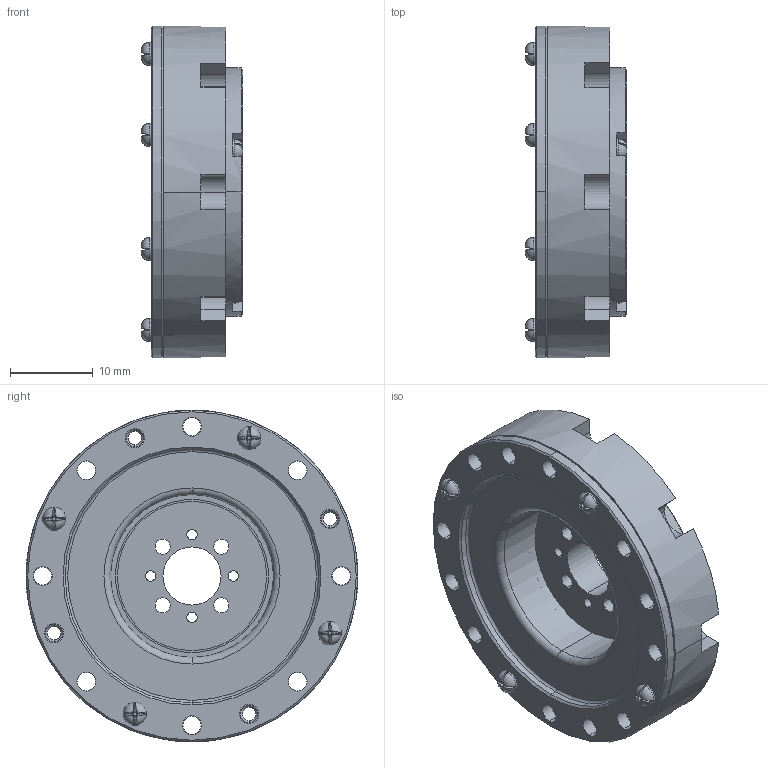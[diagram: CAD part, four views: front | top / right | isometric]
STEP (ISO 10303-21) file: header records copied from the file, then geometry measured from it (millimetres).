
FILE_DESCRIPTION (( 'STEP AP214' ), '1' );
FILE_NAME ('SHD-08-xxx.STEP', '2022-10-31T08:45:14', ( 'PC' ), ( 'Microsoft' ), 'SwSTEP 2.0', 'SolidWorks 2016', '' );
FILE_SCHEMA (( 'AUTOMOTIVE_DESIGN' ));
Length unit declared in the file: millimetre
Products named in the file (14): 2.0-幗紩_蕼偞; B-2.0-幗紩_蕼偞; M1.6-蹟隊_蕼偞; SHD-08-蝠脫粣創黑芛; SHD-08-交叉轴承内圈; SHD-08-交叉轴承外圈; SHD-08-xxx; SHD-08-詩謫; SHD-08-柔轮SLDPRT_預設; SHD-08-疏楷汜ん_蕼偞; SHD-08-柔性轴承_預設; SHD-08-芧謫_蕼偞; SHD-08蝠脫粣創_蕼偞; 31.0x1.5O型圈_預設
Assembly tree (65 placements, depth 3):
  SHD-08-xxx
    SHD-08蝠脫粣創_蕼偞
      SHD-08-交叉轴承外圈
      SHD-08-交叉轴承内圈
      SHD-08-蝠脫粣創黑芛
      M1.6-蹟隊_蕼偞
      B-2.0-幗紩_蕼偞  x23
      2.0-幗紩_蕼偞  x23
      31.0x1.5O型圈_預設
    SHD-08-疏楷汜ん_蕼偞
      SHD-08-芧謫_蕼偞
      SHD-08-柔性轴承_預設
    SHD-08-柔轮SLDPRT_預設
    SHD-08-詩謫
    M1.6-蹟隊_蕼偞  x8
Bounding box: 12.25 x 40 x 40 mm (x, y, z)
Volume: 7824.3 mm3; surface area: 13606.3 mm2
Topology: 63 solids, 63 shells, 1034 faces, 2291 edges, 1391 vertices
Faces by surface type: cylinder 347, plane 302, torus 232, cone 153
Entity records: 15407 total; most frequent: DIRECTION 2741, CARTESIAN_POINT 2472, ORIENTED_EDGE 2214, AXIS2_PLACEMENT_3D 1144, EDGE_CURVE 1107, VERTEX_POINT 703, CIRCLE 624, EDGE_LOOP 604
